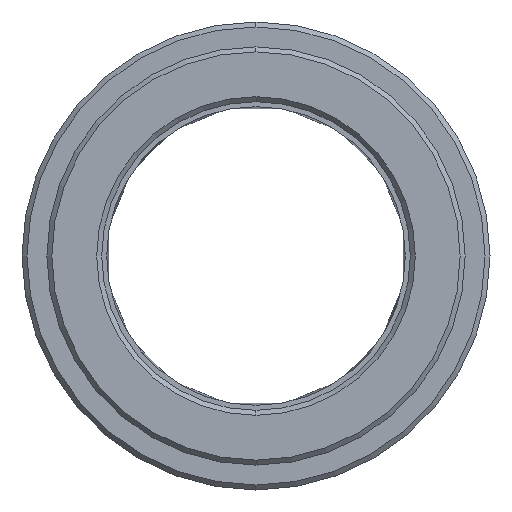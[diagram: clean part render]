
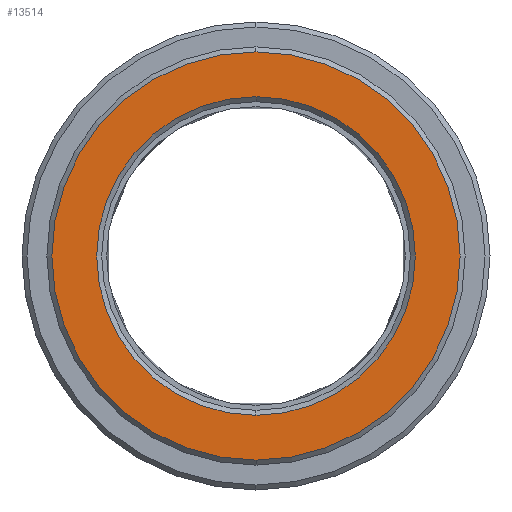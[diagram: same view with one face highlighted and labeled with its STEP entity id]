
A CAD part, left-side view. The second image highlights one B-rep face of the part: STEP entity #13514.
In plain terms, the highlighted planar face has unit normal (-1, 0, 0).
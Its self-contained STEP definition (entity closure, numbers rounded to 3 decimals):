
#5426=CARTESIAN_POINT('',(-8.,0.,
0.));
#5427=DIRECTION('',(1.,0.,0.));
#5428=DIRECTION('',(0.,0.,1.));
#5429=AXIS2_PLACEMENT_3D('',#5426,#5427,#5428);
#5431=CARTESIAN_POINT('',(-8.,0.,
0.));
#5432=DIRECTION('',(1.,0.,0.));
#5433=DIRECTION('',(0.,0.,-1.));
#5434=AXIS2_PLACEMENT_3D('',#5431,#5432,#5433);
#5436=CARTESIAN_POINT('',(-8.,0.,
0.));
#5437=DIRECTION('',(1.,0.,0.));
#5438=DIRECTION('',(0.,0.,1.));
#5439=AXIS2_PLACEMENT_3D('',#5436,#5437,#5438);
#5441=CARTESIAN_POINT('',(-8.,0.,
0.));
#5442=DIRECTION('',(1.,0.,0.));
#5443=DIRECTION('',(0.,0.,-1.));
#5444=AXIS2_PLACEMENT_3D('',#5441,#5442,#5443);
#11516=CARTESIAN_POINT('',(-8.,0.,16.));
#11517=CARTESIAN_POINT('',(-8.,0.,-16.));
#11518=VERTEX_POINT('',#11516);
#11519=VERTEX_POINT('',#11517);
#11524=CARTESIAN_POINT('',(-8.,0.,20.5));
#11525=CARTESIAN_POINT('',(-8.,0.,
-20.5));
#11526=VERTEX_POINT('',#11524);
#11527=VERTEX_POINT('',#11525);
#13498=CARTESIAN_POINT('',(-8.,0.,0.));
#13499=DIRECTION('',(1.,0.,0.));
#13500=DIRECTION('',(0.,0.,1.));
#13501=AXIS2_PLACEMENT_3D('',#13498,#13499,#13500);
#13502=PLANE('',#13501);
#13504=ORIENTED_EDGE('',*,*,#13503,.T.);
#13506=ORIENTED_EDGE('',*,*,#13505,.T.);
#13507=EDGE_LOOP('',(#13504,#13506));
#13508=FACE_OUTER_BOUND('',#13507,.F.);
#13510=ORIENTED_EDGE('',*,*,#13509,.F.);
#13511=ORIENTED_EDGE('',*,*,#13488,.F.);
#13512=EDGE_LOOP('',(#13510,#13511));
#13513=FACE_BOUND('',#13512,.F.);
#13514=ADVANCED_FACE('',(#13508,#13513),#13502,.F.);
#5430=CIRCLE('',#5429,20.5);
#5435=CIRCLE('',#5434,20.5);
#5440=CIRCLE('',#5439,16.);
#5445=CIRCLE('',#5444,16.);
#13488=EDGE_CURVE('',#11519,#11518,#5445,.T.);
#13503=EDGE_CURVE('',#11526,#11527,#5430,.T.);
#13505=EDGE_CURVE('',#11527,#11526,#5435,.T.);
#13509=EDGE_CURVE('',#11518,#11519,#5440,.T.);
